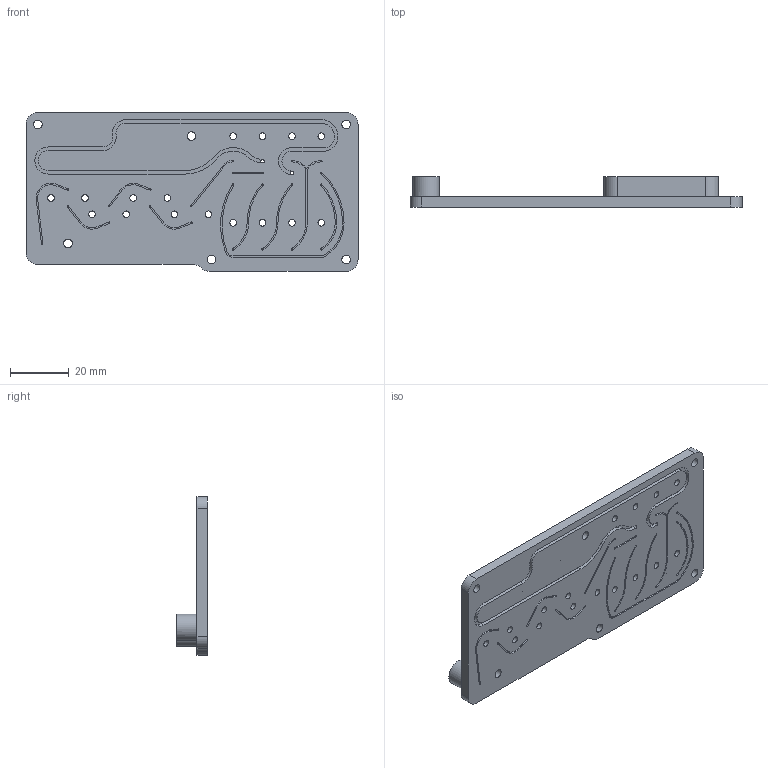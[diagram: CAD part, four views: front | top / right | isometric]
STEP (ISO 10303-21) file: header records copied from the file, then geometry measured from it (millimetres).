
FILE_DESCRIPTION (( 'STEP AP214' ), '1' );
FILE_NAME ('6021_upper_plate_r03.STEP', '2021-02-03T17:17:09', ( '' ), ( '' ), 'SwSTEP 2.0', 'SolidWorks 2019', '' );
FILE_SCHEMA (( 'AUTOMOTIVE_DESIGN' ));
Length unit declared in the file: millimetre
Products named in the file (1): 6021_upper_plate_r03
Bounding box: 113 x 10.4 x 54 mm (x, y, z)
Volume: 17498.2 mm3; surface area: 16426.7 mm2
Topology: 1 solids, 1 shells, 435 faces, 1228 edges, 797 vertices
Faces by surface type: cylinder 214, plane 146, cone 42, bspline 33
Full cylindrical faces by diameter (mm): 0.5 x23, 1.2 x14, 2.261 x16, 2.5 x1, 2.946 x6, 5.41 x5, 9 x1
Entity records: 15040 total; most frequent: CARTESIAN_POINT 3826, DIRECTION 2303, ORIENTED_EDGE 2160, EDGE_CURVE 1080, AXIS2_PLACEMENT_3D 886, VERTEX_POINT 757, EDGE_LOOP 639, LINE 531
